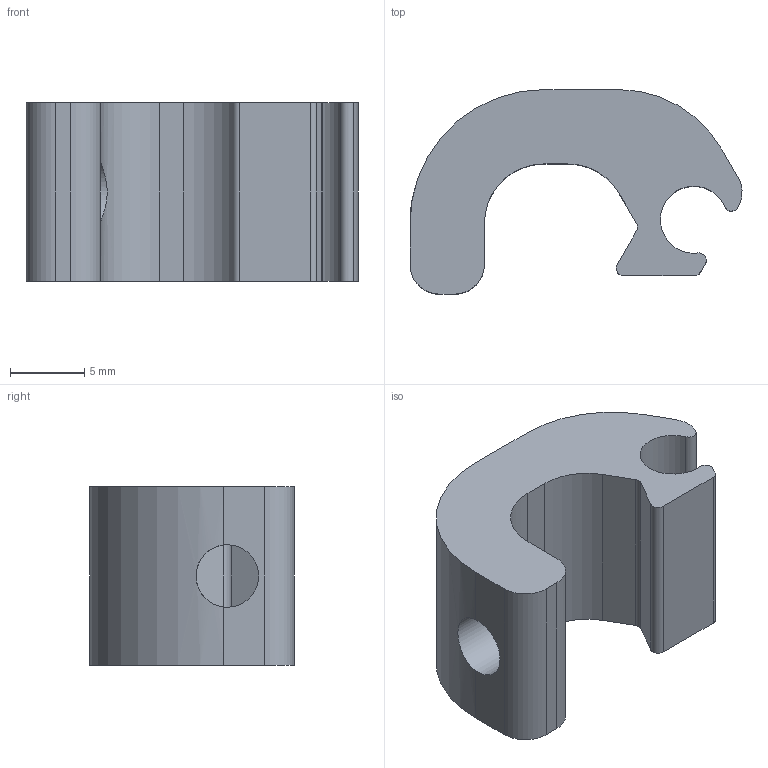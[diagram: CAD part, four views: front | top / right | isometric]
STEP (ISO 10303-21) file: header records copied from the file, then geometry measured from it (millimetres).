
FILE_DESCRIPTION( ( 'Unknown' ), '1' );
FILE_NAME( 'Z:/bereich/BECH/Services/me_CAD/Solid Edge/Models/Dokumentationen/Magnetoresitiv/Zuberhörteile/Vereinfachte Modelle/Neutralformate/st-10.stp', 'Unknown', ( 'Unknown' ), ( 'Unknown' ), 'XStep 1.0', 'Unknown', ' ' );
FILE_SCHEMA( ( 'CONFIG_CONTROL_DESIGN' ) );
Length unit declared in the file: millimetre
Products named in the file (1): 1
Bounding box: 22.31 x 13.75 x 12 mm (x, y, z)
Volume: 1869.4 mm3; surface area: 1336.6 mm2
Topology: 1 solids, 1 shells, 26 faces, 77 edges, 51 vertices
Faces by surface type: cylinder 14, plane 12
Full cylindrical faces by diameter (mm): 4.2 x1
Entity records: 967 total; most frequent: CARTESIAN_POINT 208, DIRECTION 155, ORIENTED_EDGE 150, EDGE_CURVE 75, AXIS2_PLACEMENT_3D 55, VERTEX_POINT 50, LINE 45, VECTOR 45
